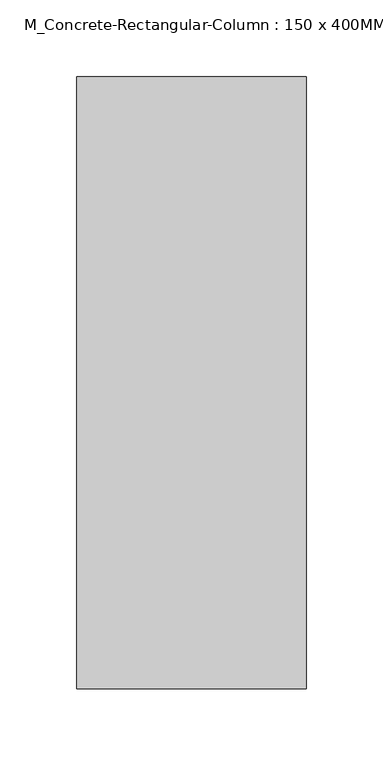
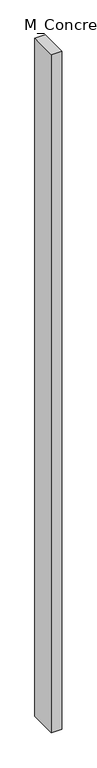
"""IFC4 building model written with IfcOpenShell, lengths in millimetres: column geometry, M_Concrete-Rectangular-Column : 150 x 400MM."""

from ifc_helpers import new_model, si_unit, frame, origin, place, context, project, spatial, polyline, outline, extrude, source, transform, mapped, element, save


def m_concrete_rectangular_column_150_x_400mm_ad771951(model_context):
    return source(origin(), model_context, "Body", "SweptSolid", [
        extrude(outline(polyline([(75.0, 200.0), (75.0, -200.0), (-75.0, -200.0), (-75.0, 200.0), (75.0, 200.0)])), frame((0.0, 0.0, 4.8), z_axis=(0.0, 0.0, 1.0), x_axis=(1.0, 0.0, 0.0)), (0.0, 0.0, 1.0), 10200.0),
    ])


if __name__ == "__main__":
    model = new_model("IFC4")
    model_context = context("Model", 3, world=origin())
    ifc_project = project(units=[si_unit("LENGTHUNIT", "METRE", prefix="MILLI")], contexts=[model_context])
    site = spatial("IfcSite", under=ifc_project)
    building = spatial("IfcBuilding", under=site)
    placement = place(None, origin())
    m_concrete_rectangular_column_150_x_400mm_shape = m_concrete_rectangular_column_150_x_400mm_ad771951(model_context)
    element("IfcColumn", 1, ObjectType="M_Concrete-Rectangular-Column : 150 x 400MM", at=placement, inside=building, context=model_context, shape_type="MappedRepresentation", body=[
        mapped(m_concrete_rectangular_column_150_x_400mm_shape, transform((0.0, 0.0, 0.0), x_axis=(1.0, 0.0, 0.0), y_axis=(0.0, 1.0, 0.0), z_axis=(0.0, 0.0, 1.0))),
    ])
    save(model, "model.ifc")
